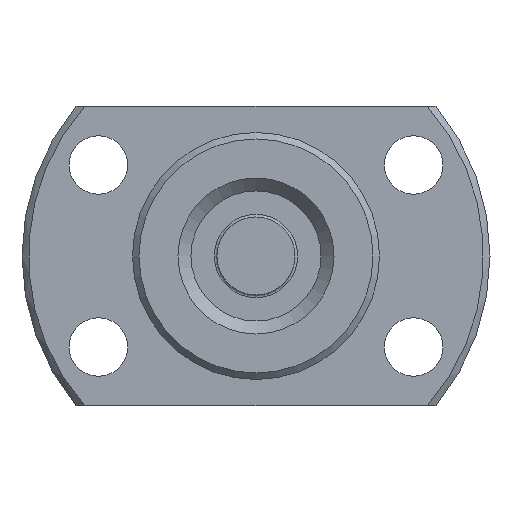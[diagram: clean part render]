
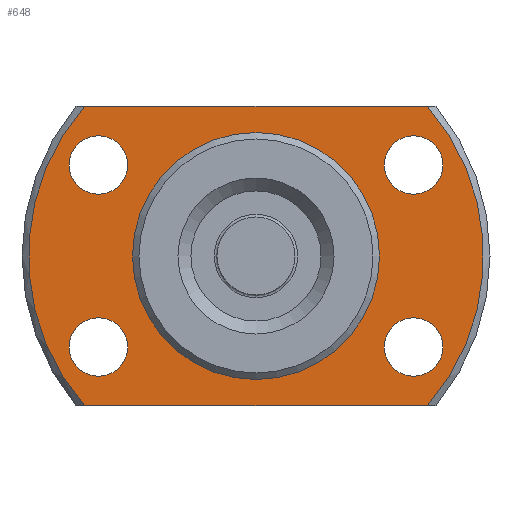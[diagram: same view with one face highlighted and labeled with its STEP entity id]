
A CAD part, left-side view. The second image highlights one B-rep face of the part: STEP entity #648.
In plain terms, the highlighted planar face has unit normal (-1, 0, 0) as drawn and (1, 0, 0) by its records, which use the part's own axes.
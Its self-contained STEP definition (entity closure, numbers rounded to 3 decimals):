
#94=CIRCLE('',#752,2.25);
#95=CIRCLE('',#753,2.25);
#96=CIRCLE('',#754,2.25);
#97=CIRCLE('',#755,2.25);
#98=CIRCLE('',#756,9.35);
#99=CIRCLE('',#757,17.5);
#100=CIRCLE('',#758,17.5);
#186=ORIENTED_EDGE('',*,*,#302,.T.);
#187=ORIENTED_EDGE('',*,*,#303,.T.);
#188=ORIENTED_EDGE('',*,*,#304,.T.);
#189=ORIENTED_EDGE('',*,*,#305,.T.);
#190=ORIENTED_EDGE('',*,*,#306,.F.);
#191=ORIENTED_EDGE('',*,*,#307,.T.);
#192=ORIENTED_EDGE('',*,*,#308,.T.);
#193=ORIENTED_EDGE('',*,*,#309,.T.);
#194=ORIENTED_EDGE('',*,*,#310,.T.);
#302=EDGE_CURVE('',#370,#370,#94,.F.);
#303=EDGE_CURVE('',#371,#371,#95,.F.);
#304=EDGE_CURVE('',#372,#372,#96,.F.);
#305=EDGE_CURVE('',#373,#373,#97,.F.);
#306=EDGE_CURVE('',#374,#374,#98,.T.);
#307=EDGE_CURVE('',#375,#376,#99,.T.);
#308=EDGE_CURVE('',#376,#377,#407,.T.);
#309=EDGE_CURVE('',#377,#378,#100,.T.);
#310=EDGE_CURVE('',#378,#375,#408,.T.);
#370=VERTEX_POINT('',#1112);
#371=VERTEX_POINT('',#1114);
#372=VERTEX_POINT('',#1116);
#373=VERTEX_POINT('',#1118);
#374=VERTEX_POINT('',#1120);
#375=VERTEX_POINT('',#1122);
#376=VERTEX_POINT('',#1123);
#377=VERTEX_POINT('',#1125);
#378=VERTEX_POINT('',#1127);
#407=LINE('',#1124,#425);
#408=LINE('',#1128,#426);
#425=VECTOR('',#931,1000.);
#426=VECTOR('',#934,1000.);
#477=EDGE_LOOP('',(#186));
#478=EDGE_LOOP('',(#187));
#479=EDGE_LOOP('',(#188));
#480=EDGE_LOOP('',(#189));
#481=EDGE_LOOP('',(#190));
#482=EDGE_LOOP('',(#191,#192,#193,#194));
#563=FACE_BOUND('',#477,.T.);
#564=FACE_BOUND('',#478,.T.);
#565=FACE_BOUND('',#479,.T.);
#566=FACE_BOUND('',#480,.T.);
#567=FACE_BOUND('',#481,.T.);
#568=FACE_BOUND('',#482,.T.);
#617=PLANE('',#751);
#648=ADVANCED_FACE('',(#563,#564,#565,#566,#567,#568),#617,.T.);
#751=AXIS2_PLACEMENT_3D('',#1110,#917,#918);
#752=AXIS2_PLACEMENT_3D('',#1111,#919,#920);
#753=AXIS2_PLACEMENT_3D('',#1113,#921,#922);
#754=AXIS2_PLACEMENT_3D('',#1115,#923,#924);
#755=AXIS2_PLACEMENT_3D('',#1117,#925,#926);
#756=AXIS2_PLACEMENT_3D('',#1119,#927,#928);
#757=AXIS2_PLACEMENT_3D('',#1121,#929,#930);
#758=AXIS2_PLACEMENT_3D('',#1126,#932,#933);
#917=DIRECTION('',(1.,0.,0.));
#918=DIRECTION('',(0.,0.,-1.));
#919=DIRECTION('',(1.,0.,0.));
#920=DIRECTION('',(0.,0.,-1.));
#921=DIRECTION('',(1.,0.,0.));
#922=DIRECTION('',(0.,0.,-1.));
#923=DIRECTION('',(1.,0.,0.));
#924=DIRECTION('',(0.,0.,-1.));
#925=DIRECTION('',(1.,0.,0.));
#926=DIRECTION('',(0.,0.,-1.));
#927=DIRECTION('',(1.,0.,0.));
#928=DIRECTION('',(0.,0.,-1.));
#929=DIRECTION('',(1.,0.,0.));
#930=DIRECTION('',(0.,0.,-1.));
#931=DIRECTION('',(0.,-1.,0.));
#932=DIRECTION('',(1.,0.,0.));
#933=DIRECTION('',(0.,0.,-1.));
#934=DIRECTION('',(0.,1.,0.));
#1110=CARTESIAN_POINT('',(6.,9.35,0.));
#1111=CARTESIAN_POINT('',(6.,12.124,7.));
#1112=CARTESIAN_POINT('',(6.,12.124,4.75));
#1113=CARTESIAN_POINT('',(6.,-12.124,-7.));
#1114=CARTESIAN_POINT('',(6.,-12.124,-9.25));
#1115=CARTESIAN_POINT('',(6.,-12.124,7.));
#1116=CARTESIAN_POINT('',(6.,-12.124,4.75));
#1117=CARTESIAN_POINT('',(6.,12.124,-7.));
#1118=CARTESIAN_POINT('',(6.,12.124,-9.25));
#1119=CARTESIAN_POINT('',(6.,0.,0.));
#1120=CARTESIAN_POINT('',(6.,0.,-9.35));
#1121=CARTESIAN_POINT('',(6.,0.,0.));
#1122=CARTESIAN_POINT('',(6.,13.191,-11.5));
#1123=CARTESIAN_POINT('',(6.,13.191,11.5));
#1124=CARTESIAN_POINT('',(6.,9.35,11.5));
#1125=CARTESIAN_POINT('',(6.,-13.191,11.5));
#1126=CARTESIAN_POINT('',(6.,0.,0.));
#1127=CARTESIAN_POINT('',(6.,-13.191,-11.5));
#1128=CARTESIAN_POINT('',(6.,9.35,-11.5));
